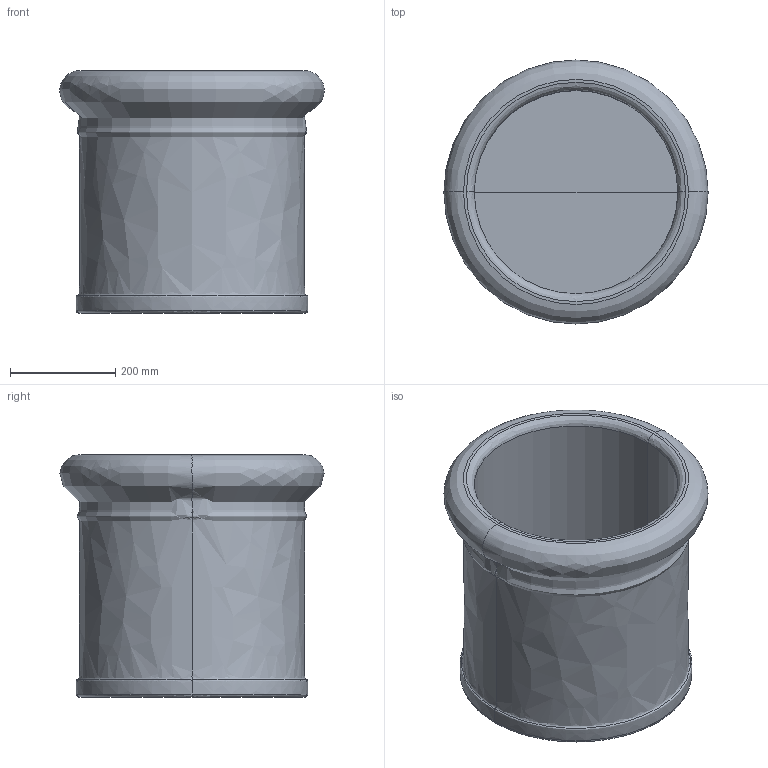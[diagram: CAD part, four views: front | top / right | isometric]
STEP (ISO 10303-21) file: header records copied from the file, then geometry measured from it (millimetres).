
FILE_DESCRIPTION(/* description */ (''),/* implementation_level */ '2;1');
FILE_NAME(/* name */ '50',/* time_stamp */ '2026-07-09T14:03:39+02:00',/* author */ (''),/* organization */ (''),/* preprocessor_version */ 'ST-DEVELOPER v19.2',/* originating_system */ 'Rhino 8.32',/* authorisation */ '');
FILE_SCHEMA (('CONFIG_CONTROL_DESIGN'));
Length unit declared in the file: millimetre
Products named in the file (1): Document
Bounding box: 500.97 x 500.84 x 460.03 mm (x, y, z)
Volume: 21563007.6 mm3; surface area: 1470069.5 mm2
Topology: 1 solids, 1 shells, 14 faces, 26 edges, 15 vertices
Faces by surface type: bspline 8, plane 4, cylinder 2
Entity records: 826 total; most frequent: CARTESIAN_POINT 485, ORIENTED_EDGE 52, DIRECTION 46, EDGE_CURVE 26, AXIS2_PLACEMENT_3D 26, TRIMMED_CURVE 18, CIRCLE 18, EDGE_LOOP 15
